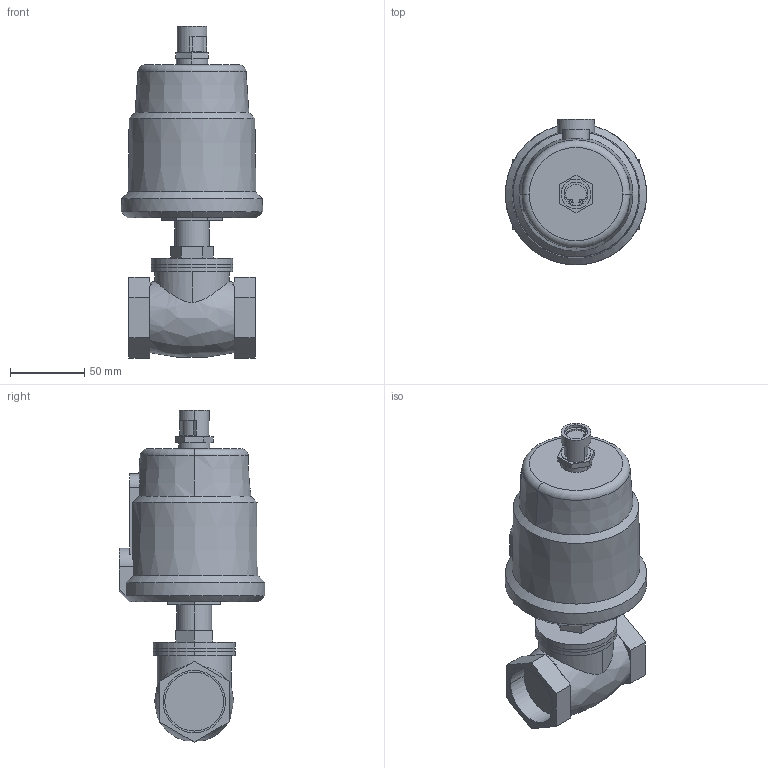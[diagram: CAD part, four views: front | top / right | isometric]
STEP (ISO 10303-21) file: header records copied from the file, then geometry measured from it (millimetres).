
FILE_DESCRIPTION((''),'2;1');
FILE_NAME('SB_KLAPAN_ASM','2024-06-08T',('AMD'),(''),'PRO/ENGINEER BY PARAMETRIC TECHNOLOGY CORPORATION, 2008020','PRO/ENGINEER BY PARAMETRIC TECHNOLOGY CORPORATION, 2008020','');
FILE_SCHEMA(('CONFIG_CONTROL_DESIGN'));
Length unit declared in the file: millimetre
Products named in the file (5): KLAPAN; UPLOTNENIE; KOLCO_16_GOST13943; KOLCO_82_GOST13943; SB_KLAPAN_ASM
Assembly tree (4 placements, depth 2):
  SB_KLAPAN_ASM
    KLAPAN
    UPLOTNENIE
    KOLCO_16_GOST13943
    KOLCO_82_GOST13943
Bounding box: 94.89 x 98 x 223.14 mm (x, y, z)
Volume: 745832 mm3; surface area: 81308.1 mm2
Topology: 4 solids, 8 shells, 171 faces, 425 edges, 280 vertices
Faces by surface type: plane 87, cylinder 71, cone 7, torus 4, bspline 2
Entity records: 5552 total; most frequent: CARTESIAN_POINT 1214, DIRECTION 938, ORIENTED_EDGE 834, EDGE_CURVE 425, AXIS2_PLACEMENT_3D 362, VERTEX_POINT 280, VECTOR 214, LINE 214
